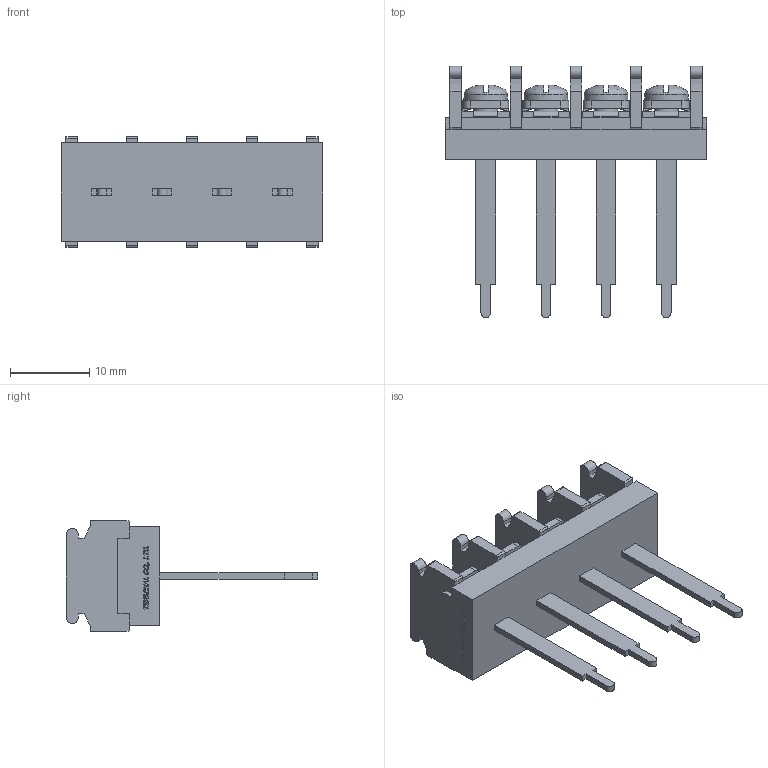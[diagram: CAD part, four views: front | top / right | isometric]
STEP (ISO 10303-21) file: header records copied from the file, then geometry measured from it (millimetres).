
FILE_DESCRIPTION(/* description */ ('Alibre Inc.'),/* implementation_level */ '2;1');
FILE_NAME(/* name */ 'export0',/* time_stamp */ '2015-10-26T16:04:48+09:00',/* author */ (''),/* organization */ (''),/* preprocessor_version */ 'ST-DEVELOPER v14',/* originating_system */ 'Alibre',/* authorisation */ '');
FILE_SCHEMA (('CONFIG_CONTROL_DESIGN'));
Length unit declared in the file: centimetre
Products named in the file (1): ID_1
Bounding box: 33.1 x 31.8 x 14 mm (x, y, z)
Volume: 3280 mm3; surface area: 3521.7 mm2
Topology: 1 solids, 1 shells, 866 faces, 2364 edges, 1556 vertices
Faces by surface type: plane 664, bspline 104, cylinder 66, cone 16, torus 8, sphere 8
Full cylindrical faces by diameter (mm): 3 x4, 5.5 x4
Entity records: 26125 total; most frequent: CARTESIAN_POINT 5831, ORIENTED_EDGE 4680, DIRECTION 3086, EDGE_CURVE 2340, VECTOR 1752, LINE 1752, VERTEX_POINT 1548, AXIS2_PLACEMENT_3D 979
